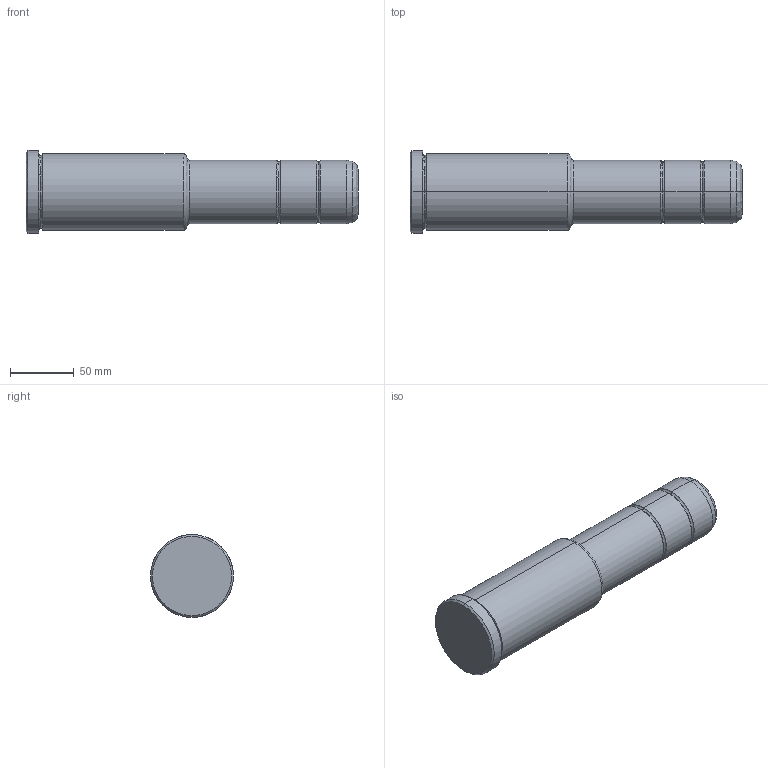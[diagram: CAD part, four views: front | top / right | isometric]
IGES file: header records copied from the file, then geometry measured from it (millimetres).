
Start section: START RECORD GO HERE.
Global section: file name: 351-50X126X260.igs; native system: DASSAULT SYSTEMES CATIA V5 R20 - www.3ds.com; preprocessor: CATIA Version 5 Release 20 ; author: Utente; organization: NB04-ASUS; date: 20211103.204307; units: millimetre
Bounding box: 260 x 65 x 65 mm (x, y, z)
Surface area: 51223 mm2 (no closed solid volume)
Topology: 0 solids, 0 shells, 35 faces, 196 edges, 196 vertices
Faces by surface type: revolution 32, plane 3
